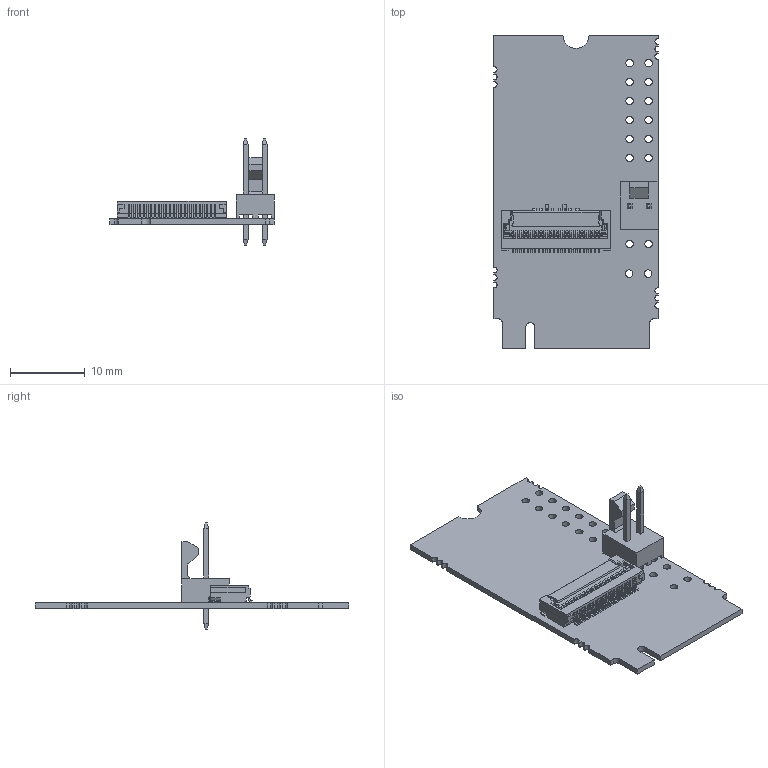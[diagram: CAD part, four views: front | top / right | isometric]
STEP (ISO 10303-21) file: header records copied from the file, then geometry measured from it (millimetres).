
FILE_DESCRIPTION(/* description */ ('step model'),/* implementation_level */ '2;1');
FILE_NAME(/* name */ 'ADPT-MX-X2G2-M2.stp',/* time_stamp */ '2017-09-04T14:33:54+02:00',/* author */ ('Spano'),/* organization */ ('Ximea'),/* preprocessor_version */ 'ST-DEVELOPER v16',/* originating_system */ 'SIEMENS PLM Software NX 11.0',/* authorisation */ '');
FILE_SCHEMA (('AUTOMOTIVE_DESIGN { 1 0 10303 214 3 1 1 1 }'));
Products named in the file (1): ADPT-MX-X2G2-M2
Bounding box: 22 x 42 x 14.22 mm (x, y, z)
Volume: 928.9 mm3; surface area: 2684 mm2
Topology: 5 solids, 5 shells, 1611 faces, 5164 edges, 3391 vertices
Faces by surface type: plane 1258, cylinder 353
Full cylindrical faces by diameter (mm): 1 x22
Entity records: 56759 total; most frequent: ORIENTED_EDGE 10328, CARTESIAN_POINT 10167, DIRECTION 9110, EDGE_CURVE 5164, LINE 4442, VECTOR 4442, VERTEX_POINT 3391, AXIS2_PLACEMENT_3D 2334
